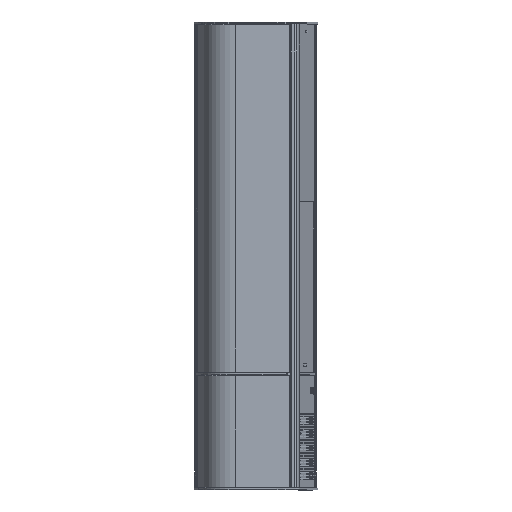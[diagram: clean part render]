
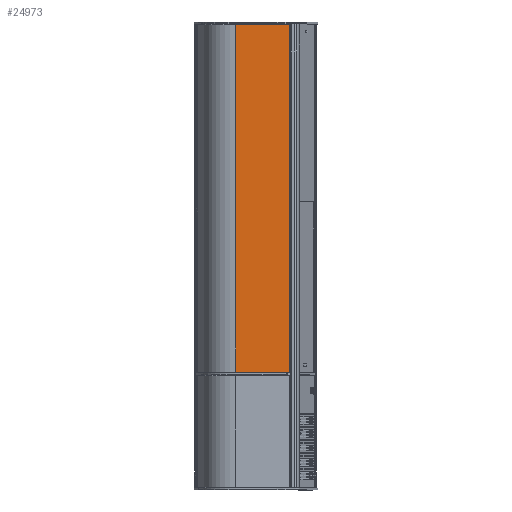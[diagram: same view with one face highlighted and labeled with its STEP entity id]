
A CAD part, top view. The second image highlights one B-rep face of the part: STEP entity #24973.
In plain terms, the highlighted planar face has unit normal (0, 0, 1) as drawn and (1, 0, 0) by its records, which use the part's own axes.
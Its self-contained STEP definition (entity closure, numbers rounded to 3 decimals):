
#3828=ORIENTED_EDGE('',*,*,#9605,.T.);
#3829=ORIENTED_EDGE('',*,*,#9606,.T.);
#3830=ORIENTED_EDGE('',*,*,#9607,.F.);
#3831=ORIENTED_EDGE('',*,*,#9608,.T.);
#9605=EDGE_CURVE('',#12717,#12718,#15148,.T.);
#9606=EDGE_CURVE('',#12718,#12719,#15149,.T.);
#9607=EDGE_CURVE('',#12720,#12719,#15150,.T.);
#9608=EDGE_CURVE('',#12720,#12717,#15151,.T.);
#12717=VERTEX_POINT('',#37716);
#12718=VERTEX_POINT('',#37717);
#12719=VERTEX_POINT('',#37719);
#12720=VERTEX_POINT('',#37721);
#15148=LINE('',#37715,#18106);
#15149=LINE('',#37718,#18107);
#15150=LINE('',#37720,#18108);
#15151=LINE('',#37722,#18109);
#18106=VECTOR('',#30798,1000.);
#18107=VECTOR('',#30799,1000.);
#18108=VECTOR('',#30800,1000.);
#18109=VECTOR('',#30801,1000.);
#20705=EDGE_LOOP('',(#3828,#3829,#3830,#3831));
#22418=FACE_BOUND('',#20705,.T.);
#23825=PLANE('',#27170);
#24973=ADVANCED_FACE('',(#22418),#23825,.F.);
#27170=AXIS2_PLACEMENT_3D('',#37714,#30796,#30797);
#30796=DIRECTION('',(-1.,0.,0.));
#30797=DIRECTION('',(0.,0.,1.));
#30798=DIRECTION('',(0.,1.,0.));
#30799=DIRECTION('',(0.,0.,1.));
#30800=DIRECTION('',(0.,1.,0.));
#30801=DIRECTION('',(0.,0.,-1.));
#37714=CARTESIAN_POINT('',(155.706,-538.,-285.499));
#37715=CARTESIAN_POINT('',(155.706,-538.,-284.499));
#37716=CARTESIAN_POINT('',(155.706,-537.,-284.499));
#37717=CARTESIAN_POINT('',(155.706,537.,-284.499));
#37718=CARTESIAN_POINT('',(155.706,537.,-285.499));
#37719=CARTESIAN_POINT('',(155.706,537.,-118.454));
#37720=CARTESIAN_POINT('',(155.706,-538.,-118.454));
#37721=CARTESIAN_POINT('',(155.706,-537.,-118.454));
#37722=CARTESIAN_POINT('',(155.706,-537.,-285.499));
